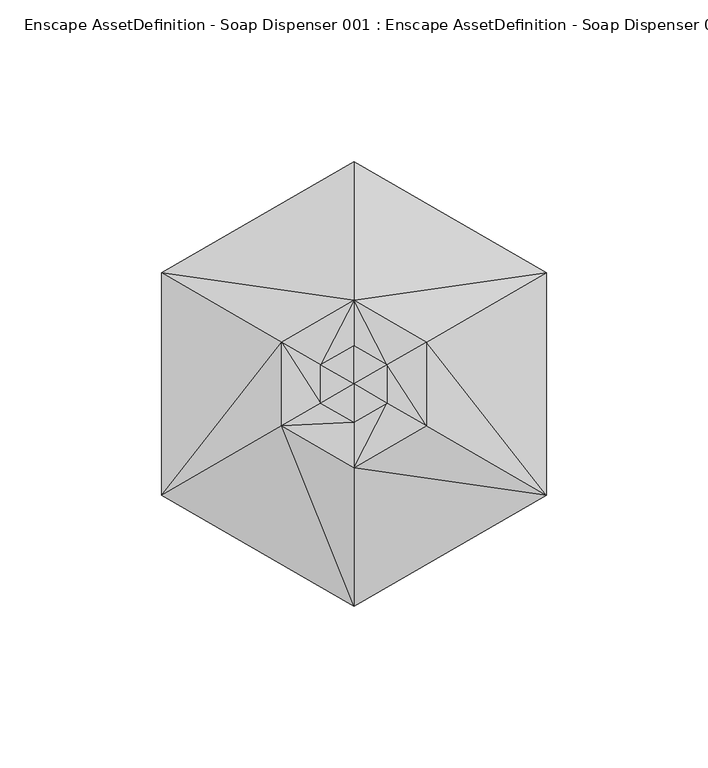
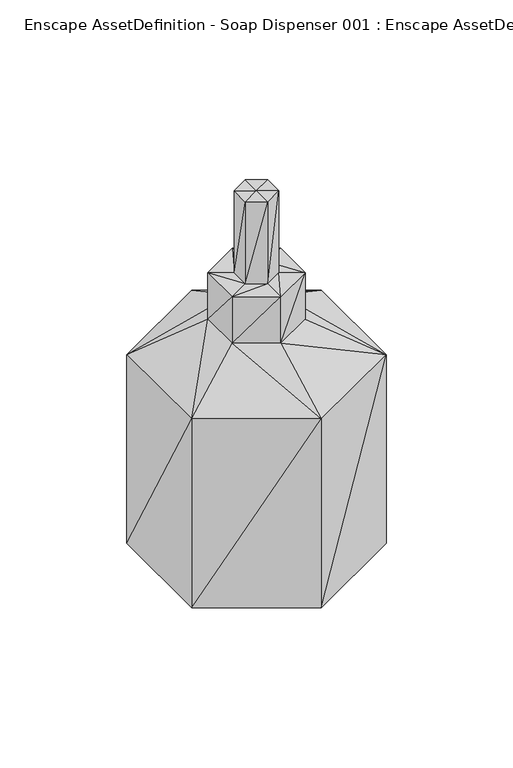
"""IFC4 building model written with IfcOpenShell, lengths in millimetres: geographic element geometry, Enscape AssetDefinition - Soap Dispenser 001 : Enscape AssetDefinition - Soap Dispenser 001."""

from ifc_helpers import new_model, si_unit, origin, place, context, project, spatial, faceted_brep, source, transform, mapped, element, save


def enscape_assetdefinition_soap_dispenser_001_enscape_b76c0e1f(model_context):
    return source(origin(), model_context, "Body", "Brep", [
        faceted_brep([(26.7797747, 15.4613172, 0.0), (59.5677548, 34.3914436, 21.8940919), (26.7797747, -15.4613172, 0.0), (59.5677548, -34.3914436, 21.8940919), (0.0, -30.9226345, 0.0), (0.0, 0.0, 0.0), (0.0, 30.9226345, 0.0), (-26.7797747, -15.4613172, 0.0), (-26.7797747, 15.4613172, 0.0), (0.0, -68.7829164, 21.8940919), (59.5677548, -34.3914436, 144.0936634), (59.5677548, 34.3914436, 144.0936634), (0.0, -68.7829164, 144.0936634), (-59.5677548, -34.3914728, 21.8940919), (-59.5677548, 34.3914436, 21.8940919), (-59.5677548, -34.3914728, 144.0936634), (0.0, -25.8561468, 167.0060968), (-22.3920692, -12.9280734, 167.0060968), (-22.3920692, 12.9280734, 167.0060968), (-59.5677548, 34.3914436, 144.0936634), (0.0, 68.7829164, 21.8940919), (0.0, 25.8561468, 167.0060968), (0.0, 68.7829164, 144.0936634), (-22.3920692, -12.9280734, 197.0468201), (-22.3920692, 12.9280734, 197.0468201), (0.0, 25.8561468, 197.0468201), (22.3920998, 12.9280734, 167.0060968), (22.3920998, 12.9280734, 197.0468201), (22.3920998, -12.9280734, 167.0060968), (22.3920998, -12.9280734, 197.0468201), (10.2846515, 5.9378568, 197.0468201), (10.2846515, -5.9378568, 197.0468201), (0.0, -25.8561468, 197.0468201), (0.0, -11.875683, 197.0468201), (10.2846515, -5.9378568, 249.9999767), (10.2846515, 5.9378568, 249.9999767), (0.0, -11.875683, 249.9999767), (-10.2846515, -5.9378568, 197.0468201), (-10.2846515, -5.9378568, 249.9999767), (-10.2846515, 5.9378568, 197.0468201), (0.0, 0.0, 250.0), (0.0, 11.875683, 249.9999767), (-10.2846515, 5.9378568, 249.9999767), (0.0, 11.875683, 197.0468201)], [[[0, 1, 2]], [[2, 3, 4]], [[5, 0, 2]], [[5, 2, 4]], [[1, 3, 2]], [[5, 6, 0]], [[1, 0, 6]], [[5, 4, 7]], [[5, 8, 6]], [[5, 7, 8]], [[4, 9, 7]], [[3, 9, 4]], [[3, 10, 9]], [[1, 11, 3]], [[11, 10, 3]], [[9, 12, 13]], [[9, 13, 7]], [[10, 12, 9]], [[7, 13, 8]], [[8, 14, 6]], [[13, 14, 8]], [[13, 15, 14]], [[12, 15, 13]], [[16, 17, 12]], [[17, 15, 12]], [[16, 12, 10]], [[17, 18, 15]], [[15, 19, 14]], [[18, 19, 15]], [[14, 19, 20]], [[14, 20, 6]], [[18, 21, 19]], [[19, 22, 20]], [[21, 22, 19]], [[17, 23, 18]], [[18, 24, 21]], [[23, 24, 18]], [[22, 21, 11]], [[21, 25, 26]], [[21, 26, 11]], [[24, 25, 21]], [[20, 22, 1]], [[22, 11, 1]], [[20, 1, 6]], [[11, 26, 10]], [[26, 27, 28]], [[26, 28, 10]], [[25, 27, 26]], [[28, 16, 10]], [[28, 29, 16]], [[27, 29, 28]], [[27, 30, 29]], [[30, 27, 25]], [[29, 31, 32]], [[29, 32, 16]], [[30, 31, 29]], [[16, 32, 17]], [[32, 33, 23]], [[32, 23, 17]], [[31, 33, 32]], [[31, 34, 33]], [[30, 35, 31]], [[35, 34, 31]], [[33, 36, 37]], [[33, 37, 23]], [[34, 36, 33]], [[23, 37, 24]], [[37, 38, 39]], [[37, 39, 24]], [[36, 38, 37]], [[40, 38, 36]], [[40, 36, 34]], [[40, 34, 35]], [[40, 35, 41]], [[41, 35, 30]], [[40, 41, 42]], [[40, 42, 38]], [[38, 42, 39]], [[24, 39, 25]], [[39, 42, 43]], [[39, 43, 25]], [[42, 41, 43]], [[43, 41, 30]], [[43, 30, 25]]]),
    ])


if __name__ == "__main__":
    model = new_model("IFC4")
    model_context = context("Model", 3, world=origin())
    ifc_project = project(units=[si_unit("LENGTHUNIT", "METRE", prefix="MILLI")], contexts=[model_context])
    site = spatial("IfcSite", under=ifc_project)
    building = spatial("IfcBuilding", under=site)
    placement = place(None, origin())
    enscape_assetdefinition_soap_dispenser_001_enscape_shape = enscape_assetdefinition_soap_dispenser_001_enscape_b76c0e1f(model_context)
    element("IfcGeographicElement", 1, ObjectType="Enscape AssetDefinition - Soap Dispenser 001 : Enscape AssetDefinition - Soap Dispenser 001", at=placement, inside=building, context=model_context, shape_type="MappedRepresentation", body=[
        mapped(enscape_assetdefinition_soap_dispenser_001_enscape_shape, transform((0.0, 0.0, 0.0), x_axis=(1.0, 0.0, 0.0), y_axis=(0.0, 1.0, 0.0), z_axis=(0.0, 0.0, 1.0))),
    ])
    save(model, "model.ifc")
